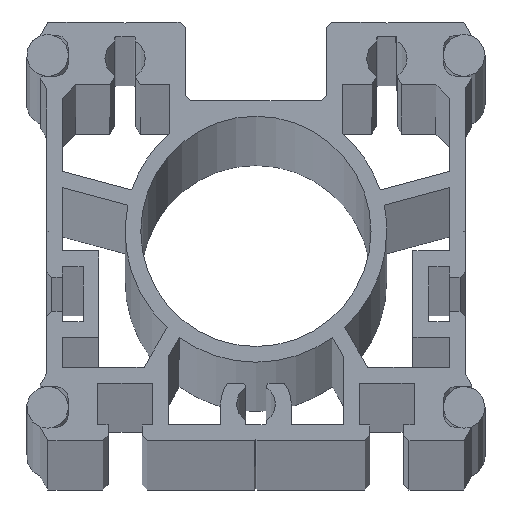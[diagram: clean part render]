
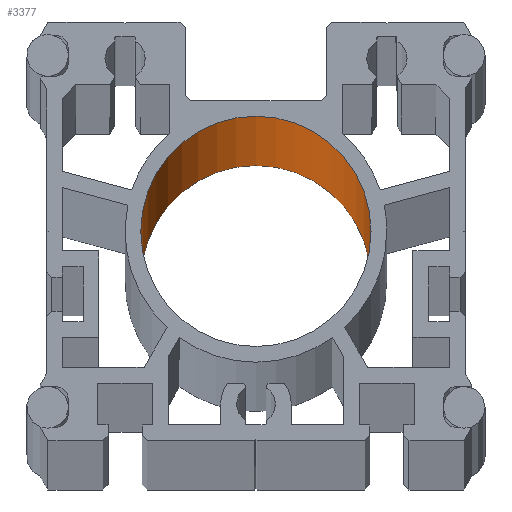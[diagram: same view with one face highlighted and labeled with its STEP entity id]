
A CAD part, top view. The second image highlights one B-rep face of the part: STEP entity #3377.
In plain terms, the highlighted cylindrical face has radius 22 mm (diameter 44 mm), a partial arc.
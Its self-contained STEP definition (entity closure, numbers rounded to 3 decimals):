
#115 = EDGE_CURVE ( 'NONE', #3993, #3992, #668, .T. ) ;
#664 = DIRECTION ( 'NONE',  ( 1., 0., 0. ) ) ;
#665 = DIRECTION ( 'NONE',  ( 0., 0., 1. ) ) ;
#666 = CARTESIAN_POINT ( 'NONE',  ( 0., 40., -2699. ) ) ;
#667 = AXIS2_PLACEMENT_3D ( 'NONE', #666, #665, #664 ) ;
#668 = CIRCLE ( 'NONE', #667, 22. ) ;
#1953 = FACE_OUTER_BOUND ( 'NONE', #3361, .T. ) ;
#2008 = DIRECTION ( 'NONE',  ( 1., 0., 0. ) ) ;
#2009 = DIRECTION ( 'NONE',  ( 0., 0., 1. ) ) ;
#2010 = CARTESIAN_POINT ( 'NONE',  ( 0., 40., -2699. ) ) ;
#2011 = AXIS2_PLACEMENT_3D ( 'NONE', #2010, #2009, #2008 ) ;
#2013 = CYLINDRICAL_SURFACE ( 'NONE', #2011, 22. ) ;
#2465 = DIRECTION ( 'NONE',  ( 1., 0., 0. ) ) ;
#2466 = DIRECTION ( 'NONE',  ( 0., 0., 1. ) ) ;
#2467 = CARTESIAN_POINT ( 'NONE',  ( 0., 40., 2699. ) ) ;
#2468 = AXIS2_PLACEMENT_3D ( 'NONE', #2467, #2466, #2465 ) ;
#2499 = CIRCLE ( 'NONE', #2468, 22. ) ;
#2979 = CARTESIAN_POINT ( 'NONE',  ( 22., 40., -2699. ) ) ;
#2980 = CARTESIAN_POINT ( 'NONE',  ( -22., 40., -2699. ) ) ;
#3360 = ORIENTED_EDGE ( 'NONE', *, *, #3641, .T. ) ;
#3361 = EDGE_LOOP ( 'NONE', ( #3371, #3378, #3365, #3360 ) ) ;
#3365 = ORIENTED_EDGE ( 'NONE', *, *, #4507, .T. ) ;
#3371 = ORIENTED_EDGE ( 'NONE', *, *, #4433, .F. ) ;
#3377 = ADVANCED_FACE ( 'NONE', ( #1953 ), #2013, .F. ) ;
#3378 = ORIENTED_EDGE ( 'NONE', *, *, #115, .F. ) ;
#3641 = EDGE_CURVE ( 'NONE', #4437, #4434, #2499, .T. ) ;
#3992 = VERTEX_POINT ( 'NONE', #2980 ) ;
#3993 = VERTEX_POINT ( 'NONE', #2979 ) ;
#4433 = EDGE_CURVE ( 'NONE', #3992, #4434, #5929, .T. ) ;
#4434 = VERTEX_POINT ( 'NONE', #5925 ) ;
#4437 = VERTEX_POINT ( 'NONE', #6159 ) ;
#4507 = EDGE_CURVE ( 'NONE', #3993, #4437, #5965, .T. ) ;
#5925 = CARTESIAN_POINT ( 'NONE',  ( -22., 40., 2699. ) ) ;
#5926 = DIRECTION ( 'NONE',  ( 0., 0., 1. ) ) ;
#5927 = VECTOR ( 'NONE', #5926, 1000. ) ;
#5928 = CARTESIAN_POINT ( 'NONE',  ( -22., 40., -2699. ) ) ;
#5929 = LINE ( 'NONE', #5928, #5927 ) ;
#5962 = DIRECTION ( 'NONE',  ( 0., 0., 1. ) ) ;
#5963 = VECTOR ( 'NONE', #5962, 1000. ) ;
#5964 = CARTESIAN_POINT ( 'NONE',  ( 22., 40., -2699. ) ) ;
#5965 = LINE ( 'NONE', #5964, #5963 ) ;
#6159 = CARTESIAN_POINT ( 'NONE',  ( 22., 40., 2699. ) ) ;
